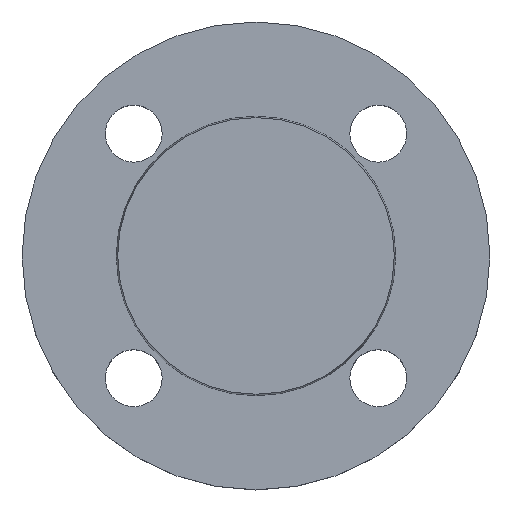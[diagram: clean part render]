
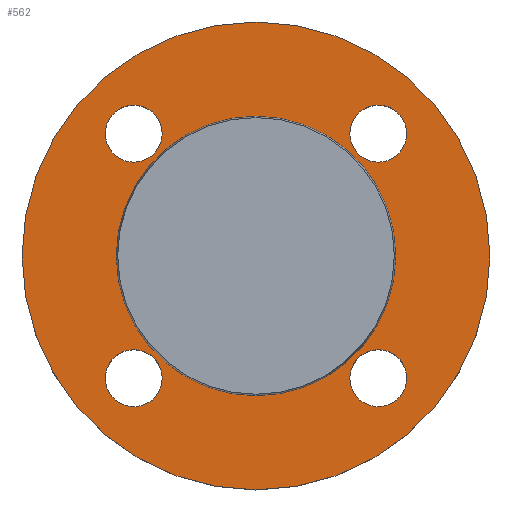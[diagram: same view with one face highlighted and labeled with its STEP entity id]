
A CAD part, top view. The second image highlights one B-rep face of the part: STEP entity #562.
In plain terms, the highlighted planar face has unit normal (0, 0, 1).
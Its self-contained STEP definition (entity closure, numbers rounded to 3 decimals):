
#3 = CARTESIAN_POINT ( 'NONE',  ( -37.052, 30.052, -2. ) ) ;
#16 = AXIS2_PLACEMENT_3D ( 'NONE', #342, #345, #347 ) ;
#18 = CIRCLE ( 'NONE', #16, 34.353 ) ;
#21 = EDGE_CURVE ( 'NONE', #584, #561, #239, .T. ) ;
#22 = FACE_BOUND ( 'NONE', #605, .T. ) ;
#27 = CARTESIAN_POINT ( 'NONE',  ( 34.353, 0., -2. ) ) ;
#29 = AXIS2_PLACEMENT_3D ( 'NONE', #327, #329, #330 ) ;
#36 = EDGE_CURVE ( 'NONE', #488, #440, #412, .T. ) ;
#46 = CIRCLE ( 'NONE', #29, 7. ) ;
#52 = EDGE_CURVE ( 'NONE', #504, #595, #55, .T. ) ;
#55 = CIRCLE ( 'NONE', #634, 7. ) ;
#57 = EDGE_CURVE ( 'NONE', #440, #488, #352, .T. ) ;
#60 = DIRECTION ( 'NONE',  ( 0., 0., -1. ) ) ;
#70 = CIRCLE ( 'NONE', #460, 7. ) ;
#83 = EDGE_CURVE ( 'NONE', #553, #599, #70, .T. ) ;
#104 = CARTESIAN_POINT ( 'NONE',  ( -57.5, 0., -2. ) ) ;
#107 = CARTESIAN_POINT ( 'NONE',  ( 23.052, -30.052, -2. ) ) ;
#111 = AXIS2_PLACEMENT_3D ( 'NONE', #293, #296, #297 ) ;
#118 = EDGE_CURVE ( 'NONE', #575, #592, #234, .T. ) ;
#125 = CIRCLE ( 'NONE', #206, 57.5 ) ;
#141 = CARTESIAN_POINT ( 'NONE',  ( 37.052, 30.052, -2. ) ) ;
#143 = DIRECTION ( 'NONE',  ( 1., 0., 0. ) ) ;
#148 = CARTESIAN_POINT ( 'NONE',  ( -23.052, -30.052, -2. ) ) ;
#150 = CARTESIAN_POINT ( 'NONE',  ( 0., 0., -2. ) ) ;
#152 = DIRECTION ( 'NONE',  ( -1., 0., 0. ) ) ;
#156 = DIRECTION ( 'NONE',  ( 0., 0., -1. ) ) ;
#161 = FACE_BOUND ( 'NONE', #229, .T. ) ;
#163 = CARTESIAN_POINT ( 'NONE',  ( 0., 0., -2. ) ) ;
#168 = CARTESIAN_POINT ( 'NONE',  ( 57.5, 0., -2. ) ) ;
#169 = EDGE_CURVE ( 'NONE', #595, #504, #713, .T. ) ;
#183 = DIRECTION ( 'NONE',  ( 0., 0., 1. ) ) ;
#184 = PLANE ( 'NONE',  #292 ) ;
#186 = DIRECTION ( 'NONE',  ( 1., 0., 0. ) ) ;
#198 = EDGE_CURVE ( 'NONE', #561, #584, #46, .T. ) ;
#199 = AXIS2_PLACEMENT_3D ( 'NONE', #163, #395, #407 ) ;
#201 = CIRCLE ( 'NONE', #199, 57.5 ) ;
#206 = AXIS2_PLACEMENT_3D ( 'NONE', #150, #156, #152 ) ;
#209 = FACE_BOUND ( 'NONE', #248, .T. ) ;
#218 = EDGE_CURVE ( 'NONE', #592, #575, #18, .T. ) ;
#229 = EDGE_LOOP ( 'NONE', ( #473, #475 ) ) ;
#234 = CIRCLE ( 'NONE', #286, 34.353 ) ;
#239 = CIRCLE ( 'NONE', #663, 7. ) ;
#248 = EDGE_LOOP ( 'NONE', ( #483, #485 ) ) ;
#259 = CARTESIAN_POINT ( 'NONE',  ( 0., 0., -2. ) ) ;
#260 = EDGE_LOOP ( 'NONE', ( #479, #480 ) ) ;
#263 = DIRECTION ( 'NONE',  ( 0., 0., -1. ) ) ;
#264 = DIRECTION ( 'NONE',  ( -1., 0., 0. ) ) ;
#272 = AXIS2_PLACEMENT_3D ( 'NONE', #524, #60, #186 ) ;
#286 = AXIS2_PLACEMENT_3D ( 'NONE', #259, #263, #264 ) ;
#290 = CIRCLE ( 'NONE', #272, 7. ) ;
#292 = AXIS2_PLACEMENT_3D ( 'NONE', #27, #183, #143 ) ;
#293 = CARTESIAN_POINT ( 'NONE',  ( 30.052, -30.052, -2. ) ) ;
#294 = CARTESIAN_POINT ( 'NONE',  ( -34.353, 0., -2. ) ) ;
#296 = DIRECTION ( 'NONE',  ( 0., 0., -1. ) ) ;
#297 = DIRECTION ( 'NONE',  ( 1., 0., 0. ) ) ;
#327 = CARTESIAN_POINT ( 'NONE',  ( -30.052, -30.052, -2. ) ) ;
#329 = DIRECTION ( 'NONE',  ( 0., 0., -1. ) ) ;
#330 = DIRECTION ( 'NONE',  ( 1., 0., 0. ) ) ;
#335 = DIRECTION ( 'NONE',  ( 1., 0., 0. ) ) ;
#342 = CARTESIAN_POINT ( 'NONE',  ( 0., 0., -2. ) ) ;
#345 = DIRECTION ( 'NONE',  ( 0., 0., -1. ) ) ;
#347 = DIRECTION ( 'NONE',  ( -1., 0., 0. ) ) ;
#352 = CIRCLE ( 'NONE', #727, 7. ) ;
#371 = CARTESIAN_POINT ( 'NONE',  ( -37.052, -30.052, -2. ) ) ;
#395 = DIRECTION ( 'NONE',  ( 0., 0., -1. ) ) ;
#407 = DIRECTION ( 'NONE',  ( -1., 0., 0. ) ) ;
#409 = CARTESIAN_POINT ( 'NONE',  ( 23.052, 30.052, -2. ) ) ;
#412 = CIRCLE ( 'NONE', #427, 7. ) ;
#427 = AXIS2_PLACEMENT_3D ( 'NONE', #668, #669, #670 ) ;
#431 = FACE_BOUND ( 'NONE', #578, .T. ) ;
#436 = CARTESIAN_POINT ( 'NONE',  ( 34.353, 0., -2. ) ) ;
#440 = VERTEX_POINT ( 'NONE', #409 ) ;
#460 = AXIS2_PLACEMENT_3D ( 'NONE', #748, #750, #335 ) ;
#465 = VERTEX_POINT ( 'NONE', #168 ) ;
#473 = ORIENTED_EDGE ( 'NONE', *, *, #169, .T. ) ;
#475 = ORIENTED_EDGE ( 'NONE', *, *, #52, .T. ) ;
#476 = ORIENTED_EDGE ( 'NONE', *, *, #21, .T. ) ;
#478 = ORIENTED_EDGE ( 'NONE', *, *, #198, .T. ) ;
#479 = ORIENTED_EDGE ( 'NONE', *, *, #573, .T. ) ;
#480 = ORIENTED_EDGE ( 'NONE', *, *, #83, .T. ) ;
#483 = ORIENTED_EDGE ( 'NONE', *, *, #36, .T. ) ;
#485 = ORIENTED_EDGE ( 'NONE', *, *, #57, .T. ) ;
#486 = ORIENTED_EDGE ( 'NONE', *, *, #218, .T. ) ;
#488 = VERTEX_POINT ( 'NONE', #141 ) ;
#490 = ORIENTED_EDGE ( 'NONE', *, *, #118, .T. ) ;
#491 = ORIENTED_EDGE ( 'NONE', *, *, #695, .F. ) ;
#492 = ORIENTED_EDGE ( 'NONE', *, *, #730, .F. ) ;
#504 = VERTEX_POINT ( 'NONE', #107 ) ;
#524 = CARTESIAN_POINT ( 'NONE',  ( -30.052, 30.052, -2. ) ) ;
#529 = CARTESIAN_POINT ( 'NONE',  ( 37.052, -30.052, -2. ) ) ;
#553 = VERTEX_POINT ( 'NONE', #3 ) ;
#556 = EDGE_LOOP ( 'NONE', ( #491, #492 ) ) ;
#559 = VERTEX_POINT ( 'NONE', #104 ) ;
#561 = VERTEX_POINT ( 'NONE', #371 ) ;
#562 = ADVANCED_FACE ( 'NONE', ( #161, #22, #739, #209, #431, #602 ), #184, .T. ) ;
#573 = EDGE_CURVE ( 'NONE', #599, #553, #290, .T. ) ;
#575 = VERTEX_POINT ( 'NONE', #436 ) ;
#578 = EDGE_LOOP ( 'NONE', ( #486, #490 ) ) ;
#584 = VERTEX_POINT ( 'NONE', #148 ) ;
#592 = VERTEX_POINT ( 'NONE', #294 ) ;
#595 = VERTEX_POINT ( 'NONE', #529 ) ;
#599 = VERTEX_POINT ( 'NONE', #745 ) ;
#602 = FACE_OUTER_BOUND ( 'NONE', #556, .T. ) ;
#605 = EDGE_LOOP ( 'NONE', ( #476, #478 ) ) ;
#634 = AXIS2_PLACEMENT_3D ( 'NONE', #685, #687, #688 ) ;
#652 = CARTESIAN_POINT ( 'NONE',  ( -30.052, -30.052, -2. ) ) ;
#653 = DIRECTION ( 'NONE',  ( 0., 0., -1. ) ) ;
#654 = DIRECTION ( 'NONE',  ( 1., 0., 0. ) ) ;
#663 = AXIS2_PLACEMENT_3D ( 'NONE', #652, #653, #654 ) ;
#668 = CARTESIAN_POINT ( 'NONE',  ( 30.052, 30.052, -2. ) ) ;
#669 = DIRECTION ( 'NONE',  ( 0., 0., -1. ) ) ;
#670 = DIRECTION ( 'NONE',  ( 1., 0., 0. ) ) ;
#685 = CARTESIAN_POINT ( 'NONE',  ( 30.052, -30.052, -2. ) ) ;
#687 = DIRECTION ( 'NONE',  ( 0., 0., -1. ) ) ;
#688 = DIRECTION ( 'NONE',  ( 1., 0., 0. ) ) ;
#690 = CARTESIAN_POINT ( 'NONE',  ( 30.052, 30.052, -2. ) ) ;
#691 = DIRECTION ( 'NONE',  ( 0., 0., -1. ) ) ;
#693 = DIRECTION ( 'NONE',  ( 1., 0., 0. ) ) ;
#695 = EDGE_CURVE ( 'NONE', #465, #559, #125, .T. ) ;
#713 = CIRCLE ( 'NONE', #111, 7. ) ;
#727 = AXIS2_PLACEMENT_3D ( 'NONE', #690, #691, #693 ) ;
#730 = EDGE_CURVE ( 'NONE', #559, #465, #201, .T. ) ;
#739 = FACE_BOUND ( 'NONE', #260, .T. ) ;
#745 = CARTESIAN_POINT ( 'NONE',  ( -23.052, 30.052, -2. ) ) ;
#748 = CARTESIAN_POINT ( 'NONE',  ( -30.052, 30.052, -2. ) ) ;
#750 = DIRECTION ( 'NONE',  ( 0., 0., -1. ) ) ;
